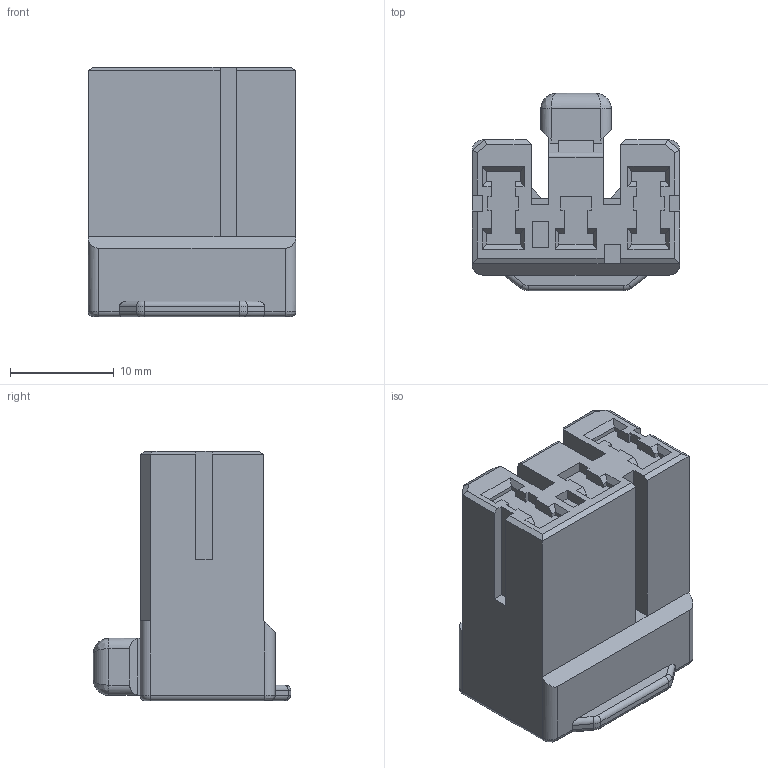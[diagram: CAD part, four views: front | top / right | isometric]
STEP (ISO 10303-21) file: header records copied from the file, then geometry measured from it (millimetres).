
FILE_DESCRIPTION((''),'2;1');
FILE_NAME('C-172494-1','2015-09-10T',('workeradm'),('Tyco Electronics Ltd.'),'PRO/ENGINEER BY PARAMETRIC TECHNOLOGY CORPORATION, 2014090','PRO/ENGINEER BY PARAMETRIC TECHNOLOGY CORPORATION, 2014090','');
FILE_SCHEMA(('AUTOMOTIVE_DESIGN { 1 0 10303 214 1 1 1 1 }'));
Length unit declared in the file: millimetre
Products named in the file (1): C-172494-1
Bounding box: 20 x 19 x 24 mm (x, y, z)
Volume: 5165.4 mm3; surface area: 2891.6 mm2
Topology: 1 solids, 1 shells, 230 faces, 587 edges, 368 vertices
Faces by surface type: plane 191, cylinder 27, bspline 7, torus 5
Entity records: 7215 total; most frequent: CARTESIAN_POINT 1551, ORIENTED_EDGE 1174, DIRECTION 1049, EDGE_CURVE 587, VECTOR 523, LINE 523, VERTEX_POINT 368, AXIS2_PLACEMENT_3D 263
